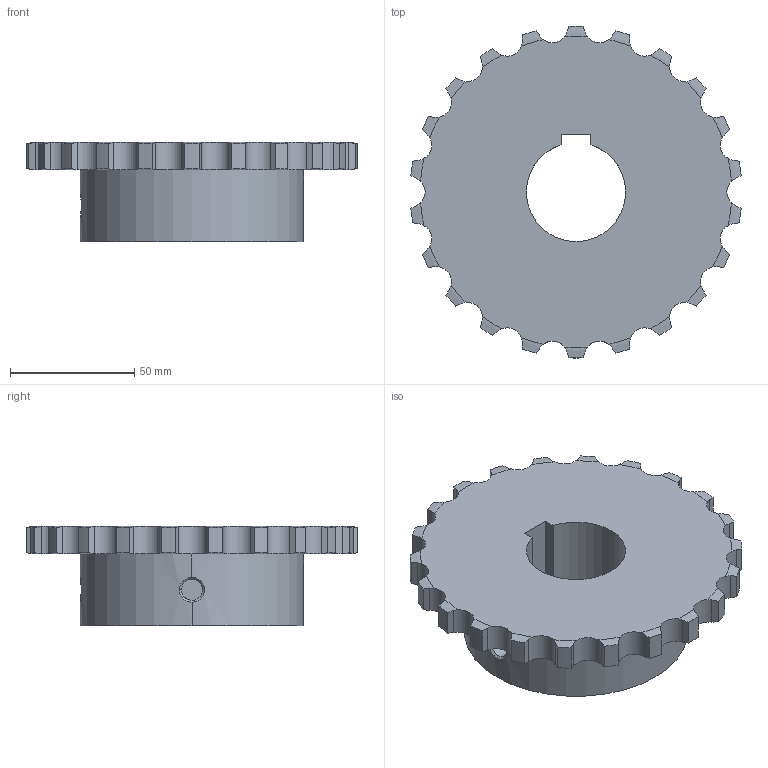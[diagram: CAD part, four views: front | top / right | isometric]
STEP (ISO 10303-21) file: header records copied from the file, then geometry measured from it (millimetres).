
FILE_DESCRIPTION((''),'2;1');
FILE_NAME('510-401-4022_PRT','2021-02-13T',('Brieden'),('Brieden'),'PRO/ENGINEER BY PARAMETRIC TECHNOLOGY CORPORATION, 2010160','PRO/ENGINEER BY PARAMETRIC TECHNOLOGY CORPORATION, 2010160','');
FILE_SCHEMA(('AUTOMOTIVE_DESIGN { 1 0 10303 214 1 1 1 1 }'));
Length unit declared in the file: millimetre
Products named in the file (1): 510-401-4022_PRT
Bounding box: 133.19 x 133.85 x 40 mm (x, y, z)
Volume: 272121.8 mm3; surface area: 43065.2 mm2
Topology: 1 solids, 1 shells, 153 faces, 441 edges, 292 vertices
Faces by surface type: cylinder 95, torus 44, plane 8, bspline 6
Entity records: 7560 total; most frequent: CARTESIAN_POINT 2397, ORIENTED_EDGE 882, DIRECTION 689, PRESENTATION_STYLE_ASSIGNMENT 442, STYLED_ITEM 442, CURVE_STYLE 441, EDGE_CURVE 441, VERTEX_POINT 292
